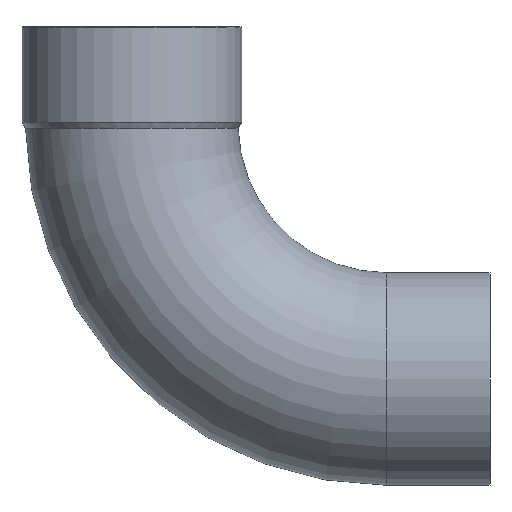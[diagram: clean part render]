
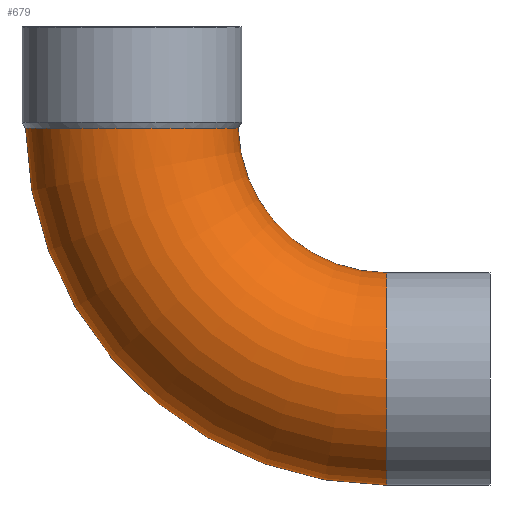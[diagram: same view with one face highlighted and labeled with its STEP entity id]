
A CAD part, front view. The second image highlights one B-rep face of the part: STEP entity #679.
In plain terms, the highlighted toroidal (fillet/blend) face has major radius 129.6 mm and minor radius 54 mm.
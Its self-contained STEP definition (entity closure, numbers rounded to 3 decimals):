
#49=CARTESIAN_POINT('',(-161.551,0.,-2.223));
#50=VERTEX_POINT('',#49);
#51=CARTESIAN_POINT('',(22.035,0.,-183.6));
#52=VERTEX_POINT('',#51);
#53=CARTESIAN_POINT('',(22.035,0.,0.0));
#54=DIRECTION('',(0.0,-1.0,0.0));
#55=DIRECTION('',(0.0,0.0,-1.0));
#56=AXIS2_PLACEMENT_3D('',#53,#54,#55);
#57=CIRCLE('',#56,183.6);
#58=EDGE_CURVE('',#50,#52,#57,.T.);
#60=CARTESIAN_POINT('',(-53.534,0.,-2.147));
#61=VERTEX_POINT('',#60);
#85=CARTESIAN_POINT('',(22.035,0.,-75.6));
#86=VERTEX_POINT('',#85);
#87=CARTESIAN_POINT('',(22.035,0.,0.0));
#88=DIRECTION('',(0.0,1.0,0.0));
#89=DIRECTION('',(0.0,0.0,-1.0));
#90=AXIS2_PLACEMENT_3D('',#87,#88,#89);
#91=CIRCLE('',#90,75.6);
#92=EDGE_CURVE('',#86,#61,#91,.T.);
#210=CARTESIAN_POINT('',(-53.534,0.,-2.147));
#211=CARTESIAN_POINT('',(-53.534,-0.471,-2.147));
#212=CARTESIAN_POINT('',(-53.541,-0.942,-2.147));
#213=CARTESIAN_POINT('',(-53.737,-8.442,-2.147));
#214=CARTESIAN_POINT('',(-55.293,-15.367,-2.15));
#215=CARTESIAN_POINT('',(-60.971,-28.233,-2.158));
#216=CARTESIAN_POINT('',(-65.041,-34.051,-2.164));
#217=CARTESIAN_POINT('',(-75.183,-43.8,-2.175));
#218=CARTESIAN_POINT('',(-81.157,-47.637,-2.181));
#219=CARTESIAN_POINT('',(-94.241,-52.806,-2.191));
#220=CARTESIAN_POINT('',(-101.224,-54.088,-2.196));
#221=CARTESIAN_POINT('',(-115.289,-53.903,-2.205));
#222=CARTESIAN_POINT('',(-122.236,-52.438,-2.208));
#223=CARTESIAN_POINT('',(-135.176,-46.928,-2.214));
#224=CARTESIAN_POINT('',(-141.046,-42.935,-2.216));
#225=CARTESIAN_POINT('',(-150.925,-32.926,-2.22));
#226=CARTESIAN_POINT('',(-154.839,-27.005,-2.221));
#227=CARTESIAN_POINT('',(-160.178,-13.995,-2.223));
#228=CARTESIAN_POINT('',(-161.551,-7.031,-2.223));
#229=CARTESIAN_POINT('',(-161.551,0.,-2.223));
#230=B_SPLINE_CURVE_WITH_KNOTS('',3,(#210,#211,#212,#213,#214,#215,#216,#217,#218,#219,#220,#221,#222,#223,#224,#225,#226,#227,#228,#229),.UNSPECIFIED.,.F.,.U.,(4,2,2,2,2,2,2,2,2,4),(-17.019,-16.877,-14.768,-12.658,-10.548,-8.438,-6.328,-4.219,-2.109,0.0),.UNSPECIFIED.);
#231=EDGE_CURVE('',#61,#50,#230,.T.);
#535=CARTESIAN_POINT('',(22.035,0.,-129.6));
#536=DIRECTION('',(-1.0,0.0,0.0));
#537=DIRECTION('',(0.0,0.0,-1.0));
#538=AXIS2_PLACEMENT_3D('',#535,#536,#537);
#539=CIRCLE('',#538,54.0);
#540=EDGE_CURVE('',#52,#86,#539,.T.);
#668=CARTESIAN_POINT('',(22.035,0.,0.0));
#669=DIRECTION('',(0.0,-1.0,0.0));
#670=DIRECTION('',(0.0,0.0,-1.0));
#671=AXIS2_PLACEMENT_3D('',#668,#669,#670);
#672=TOROIDAL_SURFACE('',#671,129.6,54.0);
#673=ORIENTED_EDGE('',*,*,#58,.T.);
#674=ORIENTED_EDGE('',*,*,#540,.T.);
#675=ORIENTED_EDGE('',*,*,#92,.T.);
#676=ORIENTED_EDGE('',*,*,#231,.T.);
#677=EDGE_LOOP('',(#673,#674,#675,#676));
#678=FACE_OUTER_BOUND('',#677,.T.);
#679=ADVANCED_FACE('',(#678),#672,.T.);
